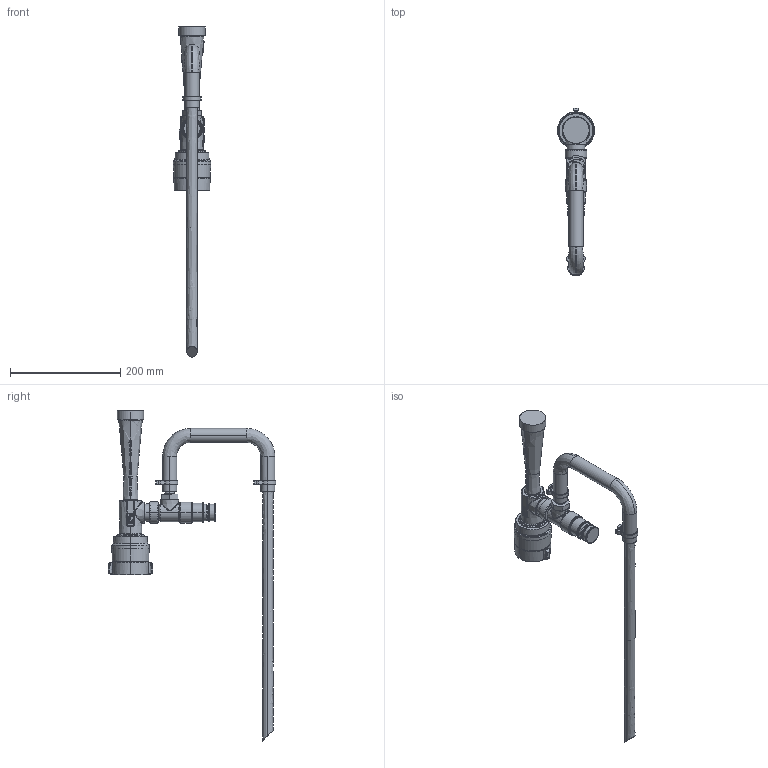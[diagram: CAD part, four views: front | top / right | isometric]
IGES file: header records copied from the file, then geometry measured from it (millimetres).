
Start section: SolidWorks IGES file using analytic representation for surfaces
Global section: file name: C:\plot\models\Z-Mous_450.IGS; native system: SolidWorks 2013; preprocessor: SolidWorks 2013; author: tmott; date: 140430.110945; units: inch
Bounding box: 67.69 x 304.21 x 598.17 mm (x, y, z)
Surface area: 133035.4 mm2 (no closed solid volume)
Topology: 0 solids, 0 shells, 676 faces, 10237 edges, 10220 vertices
Faces by surface type: bspline 472, revolution 204
